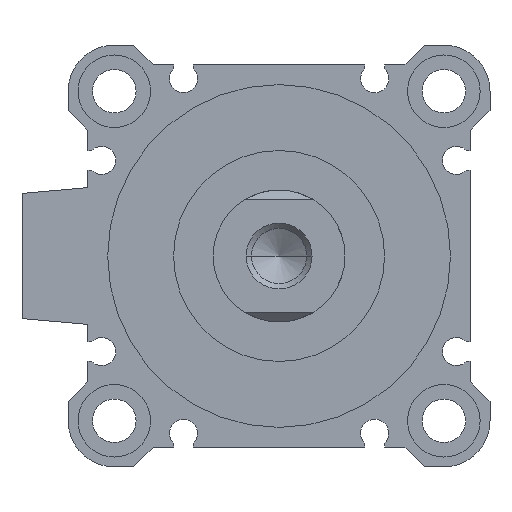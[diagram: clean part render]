
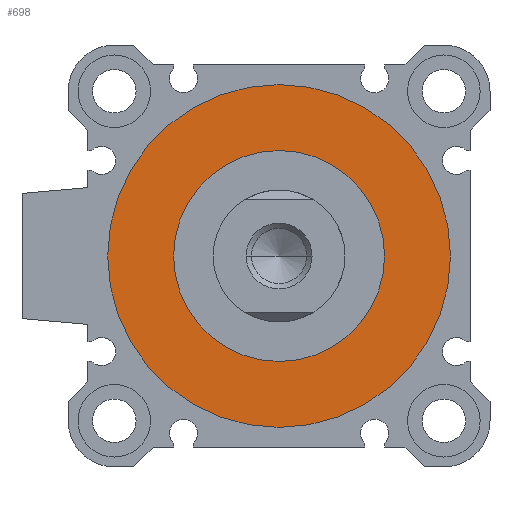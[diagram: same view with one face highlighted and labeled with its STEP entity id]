
A CAD part, left-side view. The second image highlights one B-rep face of the part: STEP entity #698.
In plain terms, the highlighted planar face has unit normal (-1, 0, 0).
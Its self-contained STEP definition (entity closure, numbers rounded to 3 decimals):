
#313 = VERTEX_POINT ( 'NONE', #1795 ) ;
#327 = CARTESIAN_POINT ( 'NONE',  ( 3., 0., 0. ) ) ;
#349 = CARTESIAN_POINT ( 'NONE',  ( 3., 0., 0. ) ) ;
#449 = EDGE_CURVE ( 'NONE', #4860, #4959, #4442, .T. ) ;
#549 = AXIS2_PLACEMENT_3D ( 'NONE', #349, #2256, #4265 ) ;
#676 = DIRECTION ( 'NONE',  ( 1., 0., 0. ) ) ;
#698 = ADVANCED_FACE ( 'NONE', ( #2613, #4813 ), #1735, .F. ) ;
#703 = CARTESIAN_POINT ( 'NONE',  ( 3., 0., 26. ) ) ;
#796 = EDGE_CURVE ( 'NONE', #4959, #4860, #1860, .T. ) ;
#968 = EDGE_LOOP ( 'NONE', ( #3709, #1397 ) ) ;
#1278 = AXIS2_PLACEMENT_3D ( 'NONE', #3730, #1504, #1856 ) ;
#1354 = DIRECTION ( 'NONE',  ( 1., 0., 0. ) ) ;
#1397 = ORIENTED_EDGE ( 'NONE', *, *, #796, .T. ) ;
#1408 = AXIS2_PLACEMENT_3D ( 'NONE', #4573, #676, #3012 ) ;
#1504 = DIRECTION ( 'NONE',  ( 1., 0., 0. ) ) ;
#1596 = AXIS2_PLACEMENT_3D ( 'NONE', #327, #3041, #2316 ) ;
#1735 = PLANE ( 'NONE',  #3641 ) ;
#1795 = CARTESIAN_POINT ( 'NONE',  ( 3., 0., -26. ) ) ;
#1856 = DIRECTION ( 'NONE',  ( 0., 0., -1. ) ) ;
#1860 = CIRCLE ( 'NONE', #549, 16. ) ;
#2049 = CIRCLE ( 'NONE', #1408, 26. ) ;
#2136 = EDGE_LOOP ( 'NONE', ( #2519, #3125 ) ) ;
#2227 = DIRECTION ( 'NONE',  ( 0., 1., 0. ) ) ;
#2256 = DIRECTION ( 'NONE',  ( 1., 0., 0. ) ) ;
#2268 = CARTESIAN_POINT ( 'NONE',  ( 3., 0., -16. ) ) ;
#2316 = DIRECTION ( 'NONE',  ( 0., 0., -1. ) ) ;
#2519 = ORIENTED_EDGE ( 'NONE', *, *, #3771, .F. ) ;
#2613 = FACE_OUTER_BOUND ( 'NONE', #2136, .T. ) ;
#3012 = DIRECTION ( 'NONE',  ( 0., 0., -1. ) ) ;
#3041 = DIRECTION ( 'NONE',  ( 1., 0., 0. ) ) ;
#3125 = ORIENTED_EDGE ( 'NONE', *, *, #3266, .F. ) ;
#3266 = EDGE_CURVE ( 'NONE', #313, #3719, #4367, .T. ) ;
#3285 = CARTESIAN_POINT ( 'NONE',  ( 3., 0., 0. ) ) ;
#3641 = AXIS2_PLACEMENT_3D ( 'NONE', #3285, #1354, #2227 ) ;
#3701 = CARTESIAN_POINT ( 'NONE',  ( 3., 0., 16. ) ) ;
#3709 = ORIENTED_EDGE ( 'NONE', *, *, #449, .T. ) ;
#3719 = VERTEX_POINT ( 'NONE', #703 ) ;
#3730 = CARTESIAN_POINT ( 'NONE',  ( 3., 0., 0. ) ) ;
#3771 = EDGE_CURVE ( 'NONE', #3719, #313, #2049, .T. ) ;
#4265 = DIRECTION ( 'NONE',  ( 0., 0., -1. ) ) ;
#4367 = CIRCLE ( 'NONE', #1278, 26. ) ;
#4442 = CIRCLE ( 'NONE', #1596, 16. ) ;
#4573 = CARTESIAN_POINT ( 'NONE',  ( 3., 0., 0. ) ) ;
#4813 = FACE_BOUND ( 'NONE', #968, .T. ) ;
#4860 = VERTEX_POINT ( 'NONE', #3701 ) ;
#4959 = VERTEX_POINT ( 'NONE', #2268 ) ;
